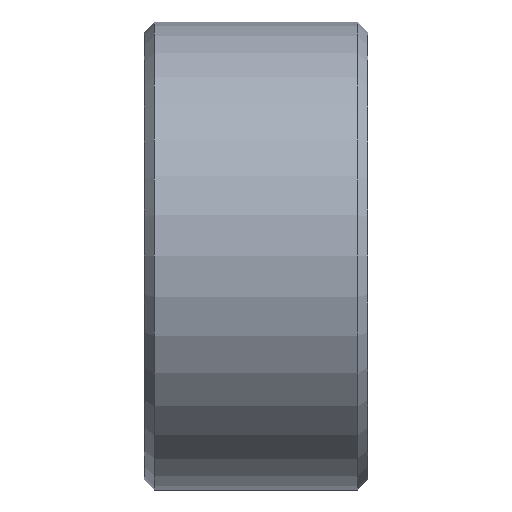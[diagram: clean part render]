
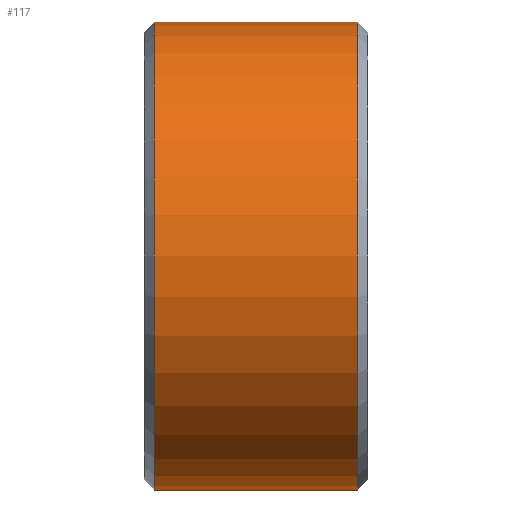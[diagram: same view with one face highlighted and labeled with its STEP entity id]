
A CAD part, front view. The second image highlights one B-rep face of the part: STEP entity #117.
In plain terms, the highlighted cylindrical face has radius 11.5 mm (diameter 23 mm), a full revolution.
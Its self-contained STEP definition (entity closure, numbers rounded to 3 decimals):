
#27=FACE_OUTER_BOUND('',#36,.T.);
#36=EDGE_LOOP('',(#97,#98,#99,#100));
#44=LINE('',#221,#50);
#50=VECTOR('',#187,11.5);
#57=CIRCLE('',#152,11.5);
#58=CIRCLE('',#154,11.5);
#65=VERTEX_POINT('',#215);
#66=VERTEX_POINT('',#219);
#75=EDGE_CURVE('',#65,#65,#57,.T.);
#77=EDGE_CURVE('',#66,#66,#58,.T.);
#78=EDGE_CURVE('',#66,#65,#44,.T.);
#97=ORIENTED_EDGE('',*,*,#77,.F.);
#98=ORIENTED_EDGE('',*,*,#78,.T.);
#99=ORIENTED_EDGE('',*,*,#75,.T.);
#100=ORIENTED_EDGE('',*,*,#78,.F.);
#112=CYLINDRICAL_SURFACE('',#153,11.5);
#117=ADVANCED_FACE('',(#27),#112,.T.);
#152=AXIS2_PLACEMENT_3D('',#216,#180,#181);
#153=AXIS2_PLACEMENT_3D('',#218,#183,#184);
#154=AXIS2_PLACEMENT_3D('',#220,#185,#186);
#180=DIRECTION('center_axis',(1.,0.,0.));
#181=DIRECTION('ref_axis',(0.,0.,-1.));
#183=DIRECTION('center_axis',(1.,0.,0.));
#184=DIRECTION('ref_axis',(0.,1.,0.));
#185=DIRECTION('center_axis',(1.,0.,0.));
#186=DIRECTION('ref_axis',(0.,0.,-1.));
#187=DIRECTION('',(-1.,0.,0.));
#215=CARTESIAN_POINT('',(-5.,-11.5,0.));
#216=CARTESIAN_POINT('Origin',(-5.,0.,0.));
#218=CARTESIAN_POINT('Origin',(0.,0.,
0.));
#219=CARTESIAN_POINT('',(5.,-11.5,0.));
#220=CARTESIAN_POINT('Origin',(5.,0.,0.));
#221=CARTESIAN_POINT('',(0.,-11.5,0.));
